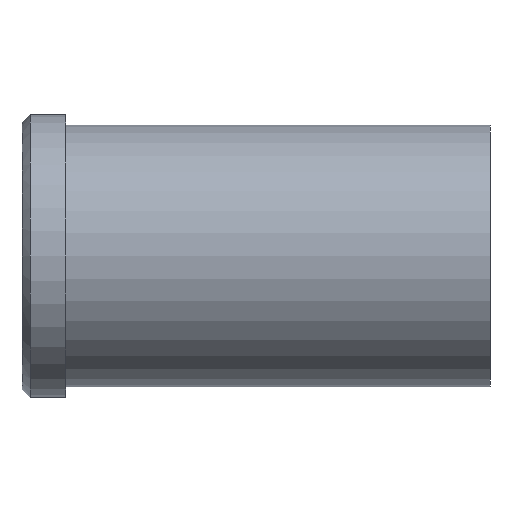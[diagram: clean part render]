
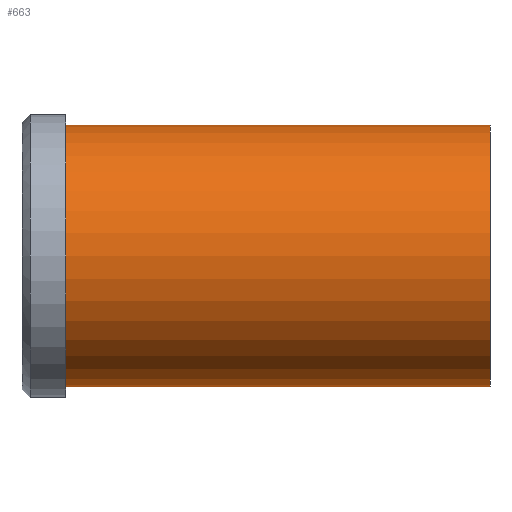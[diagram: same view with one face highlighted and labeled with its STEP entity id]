
A CAD part, front view. The second image highlights one B-rep face of the part: STEP entity #663.
In plain terms, the highlighted cylindrical face has radius 24 mm (diameter 48 mm), a partial arc.
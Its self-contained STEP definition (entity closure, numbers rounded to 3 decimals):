
#501=CARTESIAN_POINT('Vertex',(0.,0.,-24.)) ;
#506=CARTESIAN_POINT('Axis2P3D Location',(0.,0.,0.)) ;
#510=CARTESIAN_POINT('Vertex',(0.,-24.,0.)) ;
#513=CARTESIAN_POINT('Axis2P3D Location',(0.,0.,0.)) ;
#517=CARTESIAN_POINT('Vertex',(0.,0.,24.)) ;
#603=CARTESIAN_POINT('Line Origine',(78.,0.,24.)) ;
#607=CARTESIAN_POINT('Vertex',(78.,0.,24.)) ;
#621=CARTESIAN_POINT('Vertex',(78.,0.,-24.)) ;
#624=CARTESIAN_POINT('Line Origine',(78.,0.,-24.)) ;
#638=CARTESIAN_POINT('Axis2P3D Location',(78.,0.,0.)) ;
#643=CARTESIAN_POINT('Axis2P3D Location',(78.,0.,0.)) ;
#647=CARTESIAN_POINT('Vertex',(78.,-24.,0.)) ;
#650=CARTESIAN_POINT('Axis2P3D Location',(78.,0.,0.)) ;
#507=DIRECTION('Axis2P3D Direction',(1.,0.,-0.)) ;
#514=DIRECTION('Axis2P3D Direction',(1.,0.,-0.)) ;
#604=DIRECTION('Vector Direction',(-1.,0.,0.)) ;
#625=DIRECTION('Vector Direction',(-1.,0.,0.)) ;
#639=DIRECTION('Axis2P3D Direction',(-1.,-0.,-0.)) ;
#640=DIRECTION('Axis2P3D XDirection',(0.,0.,-1.)) ;
#644=DIRECTION('Axis2P3D Direction',(-1.,-0.,-0.)) ;
#651=DIRECTION('Axis2P3D Direction',(-1.,-0.,-0.)) ;
#508=AXIS2_PLACEMENT_3D('Circle Axis2P3D',#506,#507,$) ;
#515=AXIS2_PLACEMENT_3D('Circle Axis2P3D',#513,#514,$) ;
#641=AXIS2_PLACEMENT_3D('Cylinder Axis2P3D',#638,#639,#640) ;
#645=AXIS2_PLACEMENT_3D('Circle Axis2P3D',#643,#644,$) ;
#652=AXIS2_PLACEMENT_3D('Circle Axis2P3D',#650,#651,$) ;
#656=ORIENTED_EDGE('',*,*,#628,.T.) ;
#657=ORIENTED_EDGE('',*,*,#649,.F.) ;
#658=ORIENTED_EDGE('',*,*,#654,.F.) ;
#659=ORIENTED_EDGE('',*,*,#609,.T.) ;
#660=ORIENTED_EDGE('',*,*,#519,.T.) ;
#661=ORIENTED_EDGE('',*,*,#512,.T.) ;
#605=VECTOR('Line Direction',#604,1.) ;
#626=VECTOR('Line Direction',#625,1.) ;
#663=ADVANCED_FACE('353-40X86',(#662),#642,.T.) ;
#509=CIRCLE('generated circle',#508,24.) ;
#516=CIRCLE('generated circle',#515,24.) ;
#646=CIRCLE('generated circle',#645,24.) ;
#653=CIRCLE('generated circle',#652,24.) ;
#642=CYLINDRICAL_SURFACE('generated cylinder',#641,24.) ;
#512=EDGE_CURVE('',#511,#502,#509,.T.) ;
#519=EDGE_CURVE('',#518,#511,#516,.T.) ;
#609=EDGE_CURVE('',#608,#518,#606,.T.) ;
#628=EDGE_CURVE('',#502,#622,#627,.F.) ;
#649=EDGE_CURVE('',#648,#622,#646,.F.) ;
#654=EDGE_CURVE('',#608,#648,#653,.F.) ;
#655=EDGE_LOOP('',(#656,#657,#658,#659,#660,#661)) ;
#662=FACE_OUTER_BOUND('',#655,.T.) ;
#606=LINE('Line',#603,#605) ;
#627=LINE('Line',#624,#626) ;
#502=VERTEX_POINT('',#501) ;
#511=VERTEX_POINT('',#510) ;
#518=VERTEX_POINT('',#517) ;
#608=VERTEX_POINT('',#607) ;
#622=VERTEX_POINT('',#621) ;
#648=VERTEX_POINT('',#647) ;
